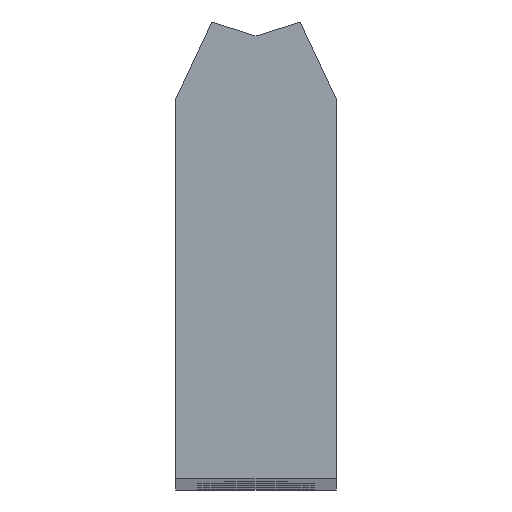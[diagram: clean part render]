
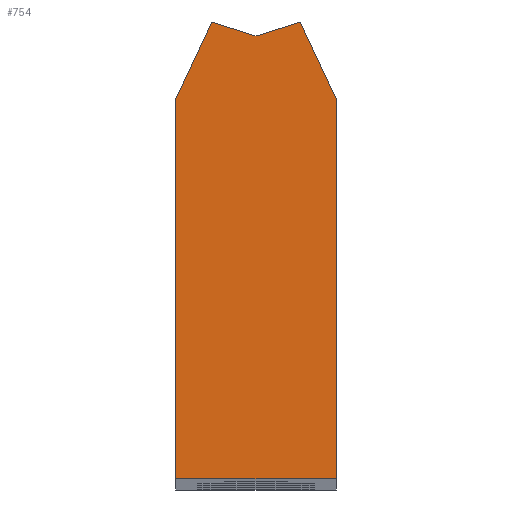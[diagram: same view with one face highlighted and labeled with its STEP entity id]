
A CAD part, top view. The second image highlights one B-rep face of the part: STEP entity #754.
In plain terms, the highlighted planar face has unit normal (0, 0, 1).
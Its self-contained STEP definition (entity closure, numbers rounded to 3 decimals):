
#146 = CARTESIAN_POINT ( 'NONE',  ( -7.5, 35.639, 299.75 ) ) ;
#244 = VECTOR ( 'NONE', #798, 1000. ) ;
#268 = ORIENTED_EDGE ( 'NONE', *, *, #2090, .T. ) ;
#271 = LINE ( 'NONE', #2223, #3062 ) ;
#273 = CARTESIAN_POINT ( 'NONE',  ( -7.5, 0., 299.75 ) ) ;
#378 = ORIENTED_EDGE ( 'NONE', *, *, #1311, .T. ) ;
#382 = CARTESIAN_POINT ( 'NONE',  ( 7.5, 0., 299.75 ) ) ;
#395 = ORIENTED_EDGE ( 'NONE', *, *, #2920, .T. ) ;
#434 = ORIENTED_EDGE ( 'NONE', *, *, #636, .T. ) ;
#457 = DIRECTION ( 'NONE',  ( 0., 0., 1. ) ) ;
#462 = CARTESIAN_POINT ( 'NONE',  ( 7.5, 35.639, 299.75 ) ) ;
#534 = CARTESIAN_POINT ( 'NONE',  ( 0., 41.515, 299.75 ) ) ;
#560 = ORIENTED_EDGE ( 'NONE', *, *, #3114, .T. ) ;
#627 = LINE ( 'NONE', #889, #2529 ) ;
#636 = EDGE_CURVE ( 'NONE', #1324, #1608, #2371, .T. ) ;
#754 = ADVANCED_FACE ( 'NONE', ( #2194 ), #3178, .T. ) ;
#757 = AXIS2_PLACEMENT_3D ( 'NONE', #965, #457, #1956 ) ;
#772 = VECTOR ( 'NONE', #1557, 1000. ) ;
#785 = ORIENTED_EDGE ( 'NONE', *, *, #3192, .T. ) ;
#797 = EDGE_LOOP ( 'NONE', ( #378, #268, #434, #785, #3027, #560, #395 ) ) ;
#798 = DIRECTION ( 'NONE',  ( 0., 1., 0. ) ) ;
#839 = CARTESIAN_POINT ( 'NONE',  ( -4.15, 42.823, 299.75 ) ) ;
#889 = CARTESIAN_POINT ( 'NONE',  ( 0., 41.515, 299.75 ) ) ;
#965 = CARTESIAN_POINT ( 'NONE',  ( 0., 0., 299.75 ) ) ;
#968 = DIRECTION ( 'NONE',  ( 1., 0., 0. ) ) ;
#1130 = LINE ( 'NONE', #1590, #2281 ) ;
#1188 = EDGE_CURVE ( 'NONE', #1831, #3090, #3043, .T. ) ;
#1311 = EDGE_CURVE ( 'NONE', #1661, #3107, #627, .T. ) ;
#1324 = VERTEX_POINT ( 'NONE', #3108 ) ;
#1546 = LINE ( 'NONE', #2293, #2084 ) ;
#1557 = DIRECTION ( 'NONE',  ( -0.954, -0.301, 0. ) ) ;
#1590 = CARTESIAN_POINT ( 'NONE',  ( 7.5, 35.639, 299.75 ) ) ;
#1608 = VERTEX_POINT ( 'NONE', #273 ) ;
#1630 = DIRECTION ( 'NONE',  ( -0.954, 0.301, 0. ) ) ;
#1645 = VERTEX_POINT ( 'NONE', #2038 ) ;
#1661 = VERTEX_POINT ( 'NONE', #534 ) ;
#1777 = CARTESIAN_POINT ( 'NONE',  ( 4.15, 42.823, 299.75 ) ) ;
#1831 = VERTEX_POINT ( 'NONE', #382 ) ;
#1956 = DIRECTION ( 'NONE',  ( 1., 0., 0. ) ) ;
#2038 = CARTESIAN_POINT ( 'NONE',  ( 4.15, 42.823, 299.75 ) ) ;
#2084 = VECTOR ( 'NONE', #3000, 1000. ) ;
#2090 = EDGE_CURVE ( 'NONE', #3107, #1324, #1546, .T. ) ;
#2194 = FACE_OUTER_BOUND ( 'NONE', #797, .T. ) ;
#2223 = CARTESIAN_POINT ( 'NONE',  ( -7.5, 0., 299.75 ) ) ;
#2281 = VECTOR ( 'NONE', #2916, 1000. ) ;
#2293 = CARTESIAN_POINT ( 'NONE',  ( -4.15, 42.823, 299.75 ) ) ;
#2371 = LINE ( 'NONE', #146, #2837 ) ;
#2389 = DIRECTION ( 'NONE',  ( 0., -1., 0. ) ) ;
#2529 = VECTOR ( 'NONE', #1630, 1000. ) ;
#2549 = CARTESIAN_POINT ( 'NONE',  ( 7.5, 0., 299.75 ) ) ;
#2775 = LINE ( 'NONE', #1777, #772 ) ;
#2837 = VECTOR ( 'NONE', #2389, 1000. ) ;
#2916 = DIRECTION ( 'NONE',  ( -0.423, 0.906, 0. ) ) ;
#2920 = EDGE_CURVE ( 'NONE', #1645, #1661, #2775, .T. ) ;
#3000 = DIRECTION ( 'NONE',  ( -0.423, -0.906, 0. ) ) ;
#3027 = ORIENTED_EDGE ( 'NONE', *, *, #1188, .T. ) ;
#3043 = LINE ( 'NONE', #2549, #244 ) ;
#3062 = VECTOR ( 'NONE', #968, 1000. ) ;
#3090 = VERTEX_POINT ( 'NONE', #462 ) ;
#3107 = VERTEX_POINT ( 'NONE', #839 ) ;
#3108 = CARTESIAN_POINT ( 'NONE',  ( -7.5, 35.639, 299.75 ) ) ;
#3114 = EDGE_CURVE ( 'NONE', #3090, #1645, #1130, .T. ) ;
#3178 = PLANE ( 'NONE',  #757 ) ;
#3192 = EDGE_CURVE ( 'NONE', #1608, #1831, #271, .T. ) ;
